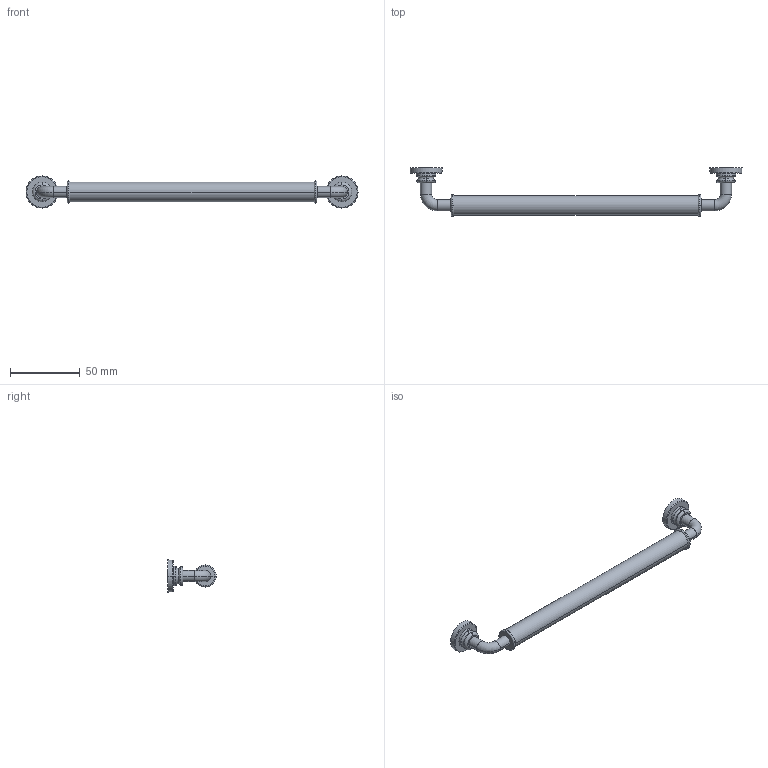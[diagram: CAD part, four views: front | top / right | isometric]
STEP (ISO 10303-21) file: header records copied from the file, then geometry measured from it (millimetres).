
FILE_DESCRIPTION( ( '' ), '1' );
FILE_NAME( 'D:/1.AUTOCAD EXPORT/Group 10/sheet_10_1/9132272.stp', '2013-10-21T06:35:16', ( '' ), ( '' ), ' ', ' ', ' ' );
FILE_SCHEMA( ( 'automotive_design' ) );
Length unit declared in the file: millimetre
Products named in the file (1): 1
Bounding box: 238 x 35 x 23 mm (x, y, z)
Volume: 35574.9 mm3; surface area: 12724.5 mm2
Topology: 1 solids, 1 shells, 95 faces, 230 edges, 141 vertices
Faces by surface type: torus 40, cone 24, cylinder 22, plane 9
Entity records: 5557 total; most frequent: DIRECTION 598, CARTESIAN_POINT 545, STYLED_ITEM 467, PRESENTATION_STYLE_ASSIGNMENT 467, COLOUR_RGB 467, ORIENTED_EDGE 460, AXIS2_PLACEMENT_3D 276, EDGE_CURVE 230
